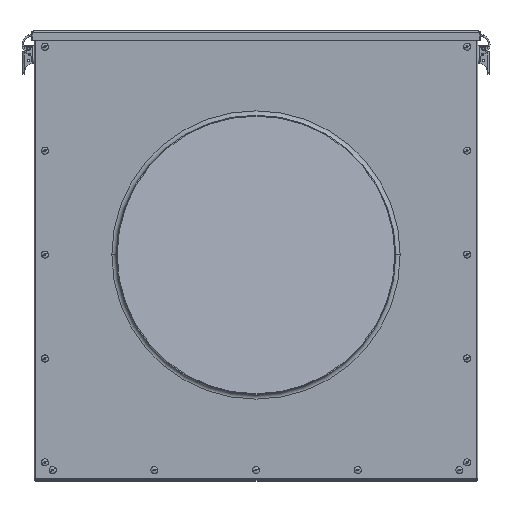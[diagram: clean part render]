
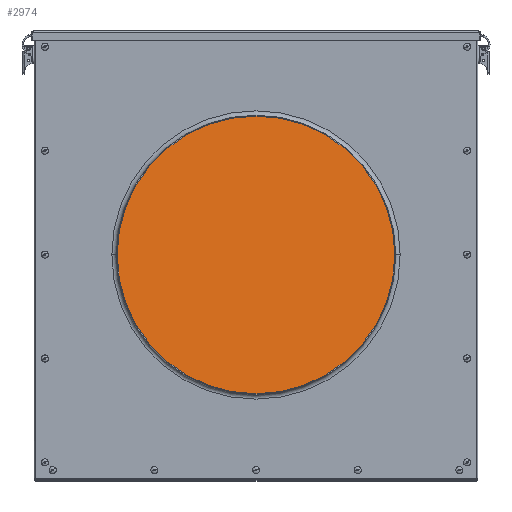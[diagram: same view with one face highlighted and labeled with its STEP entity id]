
A CAD part, top view. The second image highlights one B-rep face of the part: STEP entity #2974.
In plain terms, the highlighted planar face has unit normal (0.26, 0, 0.966).
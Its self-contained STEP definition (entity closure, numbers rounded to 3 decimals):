
#656 = VECTOR ( 'NONE', #16427, 1000. ) ;
#1099 = LINE ( 'NONE', #13903, #12103 ) ;
#1108 = LINE ( 'NONE', #2040, #656 ) ;
#1174 = VERTEX_POINT ( 'NONE', #15589 ) ;
#2040 = CARTESIAN_POINT ( 'NONE',  ( 246.981, 501.2, -63.728 ) ) ;
#2812 = VERTEX_POINT ( 'NONE', #5759 ) ;
#2974 = ADVANCED_FACE ( 'NONE', ( #9743 ), #17751, .T. ) ;
#3462 = DIRECTION ( 'NONE',  ( 0.26, 0., 0.965 ) ) ;
#4389 = VERTEX_POINT ( 'NONE', #4781 ) ;
#4781 = CARTESIAN_POINT ( 'NONE',  ( -245.419, 4.2, 69.096 ) ) ;
#4848 = ORIENTED_EDGE ( 'NONE', *, *, #18330, .F. ) ;
#4865 = CARTESIAN_POINT ( 'NONE',  ( 246.981, 501.2, -63.728 ) ) ;
#5759 = CARTESIAN_POINT ( 'NONE',  ( 246.981, 4.2, -63.728 ) ) ;
#6368 = DIRECTION ( 'NONE',  ( 0., 1., 0. ) ) ;
#6741 = EDGE_CURVE ( 'NONE', #17894, #2812, #1108, .T. ) ;
#7013 = LINE ( 'NONE', #16341, #10378 ) ;
#7160 = ORIENTED_EDGE ( 'NONE', *, *, #11603, .F. ) ;
#9110 = CARTESIAN_POINT ( 'NONE',  ( -245.419, 501.2, 69.096 ) ) ;
#9466 = LINE ( 'NONE', #4865, #17118 ) ;
#9743 = FACE_OUTER_BOUND ( 'NONE', #10805, .T. ) ;
#10378 = VECTOR ( 'NONE', #6368, 1000. ) ;
#10738 = AXIS2_PLACEMENT_3D ( 'NONE', #9110, #3462, #13474 ) ;
#10805 = EDGE_LOOP ( 'NONE', ( #4848, #15368, #7160, #16003 ) ) ;
#10812 = CARTESIAN_POINT ( 'NONE',  ( 246.981, 501.2, -63.728 ) ) ;
#11603 = EDGE_CURVE ( 'NONE', #2812, #4389, #1099, .T. ) ;
#12103 = VECTOR ( 'NONE', #15351, 1000. ) ;
#13425 = DIRECTION ( 'NONE',  ( 0.965, 0., -0.26 ) ) ;
#13474 = DIRECTION ( 'NONE',  ( 0., 1., 0. ) ) ;
#13480 = EDGE_CURVE ( 'NONE', #4389, #1174, #7013, .T. ) ;
#13903 = CARTESIAN_POINT ( 'NONE',  ( 246.981, 4.2, -63.728 ) ) ;
#15351 = DIRECTION ( 'NONE',  ( -0.965, 0., 0.26 ) ) ;
#15368 = ORIENTED_EDGE ( 'NONE', *, *, #13480, .F. ) ;
#15589 = CARTESIAN_POINT ( 'NONE',  ( -245.419, 501.2, 69.096 ) ) ;
#16003 = ORIENTED_EDGE ( 'NONE', *, *, #6741, .F. ) ;
#16341 = CARTESIAN_POINT ( 'NONE',  ( -245.419, 501.2, 69.096 ) ) ;
#16427 = DIRECTION ( 'NONE',  ( 0., -1., 0. ) ) ;
#17118 = VECTOR ( 'NONE', #13425, 1000. ) ;
#17751 = PLANE ( 'NONE',  #10738 ) ;
#17894 = VERTEX_POINT ( 'NONE', #10812 ) ;
#18330 = EDGE_CURVE ( 'NONE', #1174, #17894, #9466, .T. ) ;
